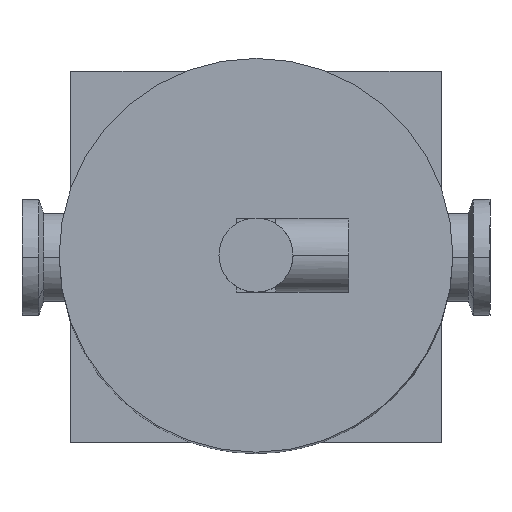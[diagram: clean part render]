
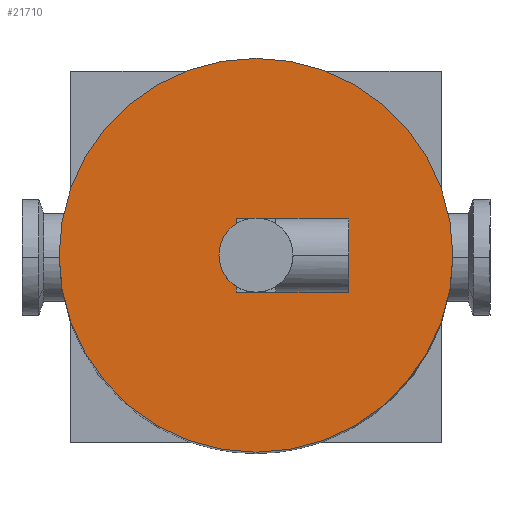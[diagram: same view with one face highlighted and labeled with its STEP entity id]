
A CAD part, top view. The second image highlights one B-rep face of the part: STEP entity #21710.
In plain terms, the highlighted planar face has unit normal (0, 0, 1) as drawn and (0, -0.707, 0.707) by its records, which use the part's own axes.
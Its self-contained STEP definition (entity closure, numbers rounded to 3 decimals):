
#20820=CARTESIAN_POINT('',(-13.5,-143.914,
122.741));
#20830=VERTEX_POINT('',#20820);
#21020=CARTESIAN_POINT('',(-13.5,-83.81,
182.846));
#21030=VERTEX_POINT('',#21020);
#21060=CARTESIAN_POINT('',(-13.5,-113.862,
152.794));
#21070=DIRECTION('',(0.,-0.707,
0.707));
#21080=DIRECTION('',(0.,-0.707,
-0.707));
#21090=AXIS2_PLACEMENT_3D('',#21060,#21070,#21080);
#21100=CIRCLE('',#21090,42.5);
#21110=EDGE_CURVE('',#21030,#20830,#21100,.T.);
#21460=CARTESIAN_POINT('',(-13.5,-128.888,
137.767));
#21470=DIRECTION('',(0.,0.707,
-0.707));
#21480=DIRECTION('',(0.,-0.707,
-0.707));
#21490=AXIS2_PLACEMENT_3D('',#21460,#21470,#21480);
#21500=PLANE('',#21490);
#21510=CARTESIAN_POINT('',(-13.5,-113.862,
152.794));
#21520=DIRECTION('',(0.,-0.707,
0.707));
#21530=DIRECTION('',(-1.,0.,0.));
#21540=AXIS2_PLACEMENT_3D('',#21510,#21520,#21530);
#21550=CIRCLE('',#21540,8.);
#21560=CARTESIAN_POINT('',(-21.5,-113.862,
152.794));
#21570=VERTEX_POINT('',#21560);
#21580=CARTESIAN_POINT('',(-5.5,-113.862,
152.794));
#21590=VERTEX_POINT('',#21580);
#21600=EDGE_CURVE('',#21570,#21590,#21550,.T.);
#21610=ORIENTED_EDGE('',*,*,#21600,.F.);
#21620=EDGE_CURVE('',#21590,#21570,#21550,.T.);
#21630=ORIENTED_EDGE('',*,*,#21620,.F.);
#21640=EDGE_LOOP('',(#21630,#21610));
#21650=FACE_BOUND('',#21640,.T.);
#21660=EDGE_CURVE('',#20830,#21030,#21100,.T.);
#21670=ORIENTED_EDGE('',*,*,#21660,.T.);
#21680=ORIENTED_EDGE('',*,*,#21110,.T.);
#21690=EDGE_LOOP('',(#21680,#21670));
#21700=FACE_OUTER_BOUND('',#21690,.T.);
#21710=ADVANCED_FACE('',(#21650,#21700),#21500,.F.);
